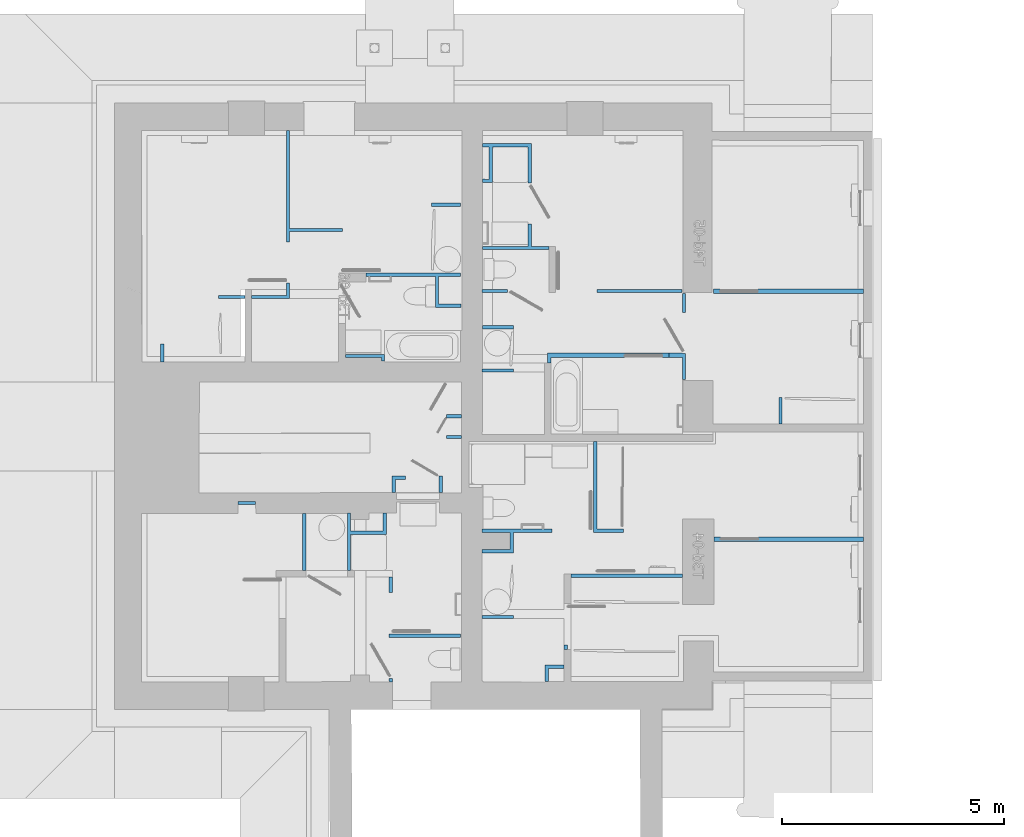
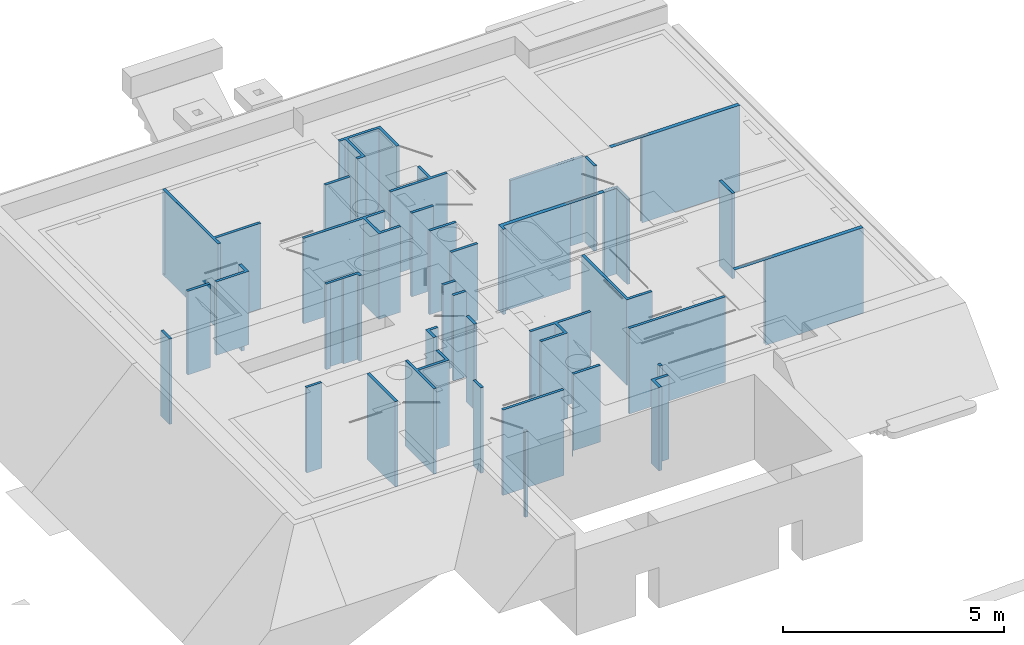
# Not in any storey, part 1 of 22: 1 plate.
"""IFC4 model written with IfcOpenShell, lengths in metres."""

import ifcopenshell
import ifcopenshell.guid

model = None  # the IFC model being written
_history = None  # IfcOwnerHistory: only IFC2X3 demands one
_inside = {}  # id of a spatial element -> (the spatial element, [elements in it])
_under = {}  # id of a project, library or spatial element -> (it, [spatial elements below it])
_declared = {}  # id of a project -> (the project, [libraries it declares])
_typed = {}  # id of a type object -> (the type object, [elements of that type])
_made_of = {}  # id of a material, layer set ... -> (it, [elements and type objects made of it])


def new_model(schema):
    """Start an empty IFC model of exactly this schema.

    Asked for "IFC4X3", IfcOpenShell would pick the latest addendum, in which some entities
    have other attributes; the version numbers below select the first issue.
    IFC2X3 requires an IfcOwnerHistory on every rooted entity: one is made here for all.
    """
    global model, _history
    if schema == "IFC4X3":
        model = ifcopenshell.file(schema_version=(4, 3, 0, 0))
    else:
        model = ifcopenshell.file(schema=schema)
    _inside.clear()
    _under.clear()
    _declared.clear()
    _typed.clear()
    _made_of.clear()
    _history = None
    if model.schema == "IFC2X3":
        org = make("IfcOrganization", Name="unknown")
        user = make(
            "IfcPersonAndOrganization",
            ThePerson=make("IfcPerson", FamilyName="unknown"),
            TheOrganization=org,
        )
        app = make(
            "IfcApplication",
            ApplicationDeveloper=org,
            Version="unknown",
            ApplicationFullName="unknown",
            ApplicationIdentifier="unknown",
        )
        _history = make(
            "IfcOwnerHistory",
            OwningUser=user,
            OwningApplication=app,
            ChangeAction="ADDED",
            CreationDate=0,
        )
    return model


def make(cls, **values):
    """One entity of the class cls with the attributes given. An attribute that is None is left unset."""
    return model.create_entity(
        cls, **{name: value for name, value in values.items() if value is not None}
    )


def rooted(cls, **values):
    """An entity with a GlobalId (a new one), such as an element, a storey or a relation."""
    return make(cls, GlobalId=ifcopenshell.guid.new(), OwnerHistory=_history, **values)


def si_unit(unit_type, name, prefix=None):
    """IfcSIUnit, for example si_unit("LENGTHUNIT", "METRE", prefix="MILLI")."""
    return make("IfcSIUnit", UnitType=unit_type, Prefix=prefix, Name=name)


def assignment(units):
    """IfcUnitAssignment: the units of a project."""
    return None if units is None else make("IfcUnitAssignment", Units=units)


def point(xyz):
    """IfcCartesianPoint."""
    return None if xyz is None else make("IfcCartesianPoint", Coordinates=xyz)


def direction(xyz):
    """IfcDirection."""
    return None if xyz is None else make("IfcDirection", DirectionRatios=xyz)


def frame(location, z_axis=None, x_axis=None):
    """IfcAxis2Placement3D, a coordinate frame: its origin and axes. An axis left out is left unset."""
    return make(
        "IfcAxis2Placement3D",
        Location=point(location),
        Axis=direction(z_axis),
        RefDirection=direction(x_axis),
    )


def origin_with_axes():
    """The frame at (0, 0, 0) with the z axis (0, 0, 1) and the x axis (1, 0, 0) written out."""
    return frame((0.0, 0.0, 0.0), z_axis=(0.0, 0.0, 1.0), x_axis=(1.0, 0.0, 0.0))


def place(relative_to, where):
    """IfcLocalPlacement: puts the frame where relative to a parent placement (None: the world)."""
    return make(
        "IfcLocalPlacement", PlacementRelTo=relative_to, RelativePlacement=where
    )


def context(
    kind, dimensions, precision=None, world=None, true_north=None, identifier=None
):
    """IfcGeometricRepresentationContext, for example the 3D "Model" context."""
    return make(
        "IfcGeometricRepresentationContext",
        ContextIdentifier=identifier,
        ContextType=kind,
        CoordinateSpaceDimension=dimensions,
        Precision=precision,
        WorldCoordinateSystem=world,
        TrueNorth=true_north,
    )


def subcontext(parent, identifier, kind, view, scale=None):
    """IfcGeometricRepresentationSubContext, for example "Body" below "Model"."""
    return make(
        "IfcGeometricRepresentationSubContext",
        ContextIdentifier=identifier,
        ContextType=kind,
        ParentContext=parent,
        TargetScale=scale,
        TargetView=view,
    )


def project(units=None, contexts=None):
    """IfcProject with its units and contexts."""
    return rooted(
        "IfcProject",
        Name="project",
        RepresentationContexts=contexts,
        UnitsInContext=assignment(units),
    )


def faces_of(points, faces, orient=None, outer=None):
    """IfcFace entities. A face is a list of loops; a loop is a list of indices into points, from 0.

    orient and outer hold one flag for each loop. By default every Orientation is true, the
    first loop of a face is its IfcFaceOuterBound and the others are IfcFaceBound.
    """
    made = []
    for i, loops in enumerate(faces):
        bounds = []
        for j, loop in enumerate(loops):
            is_outer = j == 0 if outer is None else outer[i][j]
            bounds.append(
                make(
                    "IfcFaceOuterBound" if is_outer else "IfcFaceBound",
                    Bound=make("IfcPolyLoop", Polygon=[points[k] for k in loop]),
                    Orientation=True if orient is None else orient[i][j],
                )
            )
        made.append(make("IfcFace", Bounds=bounds))
    return made


def faceted_brep(points, faces, orient=None, outer=None, voids=None):
    """IfcFacetedBrep: a solid bounded by flat faces; with voids (closed shells), ...WithVoids."""
    shared = [point(p) for p in points]
    hull = make("IfcClosedShell", CfsFaces=faces_of(shared, faces, orient, outer))
    if voids is None:
        return make("IfcFacetedBrep", Outer=hull)
    return make(
        "IfcFacetedBrepWithVoids",
        Outer=hull,
        Voids=[
            make(cls, CfsFaces=faces_of(shared, fs, o, b)) for cls, fs, o, b in voids
        ],
    )


def shape(context_of_items, identifier, shape_type, items):
    """IfcShapeRepresentation: the items that make up one representation, for example the "Body"."""
    return make(
        "IfcShapeRepresentation",
        ContextOfItems=context_of_items,
        RepresentationIdentifier=identifier,
        RepresentationType=shape_type,
        Items=items,
    )


def made_of(thing, what):
    """Note that an element or type object is made of a material, layer set ...; save() writes the relation."""
    if what is not None:
        _made_of.setdefault(what.id(), (what, []))[1].append(thing)
    return thing


def element(
    cls,
    number,
    at=None,
    inside=None,
    cuts=None,
    type_object=None,
    material=None,
    context=None,
    identifier="Body",
    shape_type=None,
    held_by="IfcProductDefinitionShape",
    body=None,
    shapes=None,
    **own,
):
    """One element of the class cls, such as IfcWall. Its Tag is "e" and its number.

    at: its placement. inside: the storey or other place that contains it. cuts: it is an
    opening in that element (IfcRelVoidsElement). A single representation is given by context,
    identifier, shape_type and body (its items); several are given by shapes. held_by: the class
    of the entity that holds the representations. save() writes the other relations.
    """
    e = rooted(cls, Tag="e%d" % number, ObjectPlacement=at, **own)
    if body is not None:
        shapes = [shape(context, identifier, shape_type, body)]
    if shapes is not None:
        e.Representation = make(held_by, Representations=shapes)
    if inside is not None:
        _inside.setdefault(inside.id(), (inside, []))[1].append(e)
    if cuts is not None:
        rooted(
            "IfcRelVoidsElement", RelatingBuildingElement=cuts, RelatedOpeningElement=e
        )
    if type_object is not None:
        _typed.setdefault(type_object.id(), (type_object, []))[1].append(e)
    return made_of(e, material)


def aggregate(whole, parts):
    """IfcRelAggregates: a whole, such as a stair, and the parts it consists of."""
    return rooted("IfcRelAggregates", RelatingObject=whole, RelatedObjects=parts)


def save(model, path):
    """Write the relations noted so far, then the file.

    IfcRelAggregates (storeys below a building ...), IfcRelContainedInSpatialStructure (elements
    in a storey), IfcRelDefinesByType, IfcRelAssociatesMaterial and IfcRelDeclares: one each for
    every whole, place, type object, material and project.
    """
    for whole, parts in _under.values():
        aggregate(whole, parts)
    for where, things in _inside.values():
        rooted(
            "IfcRelContainedInSpatialStructure",
            RelatedElements=things,
            RelatingStructure=where,
        )
    for kind, things in _typed.values():
        rooted("IfcRelDefinesByType", RelatedObjects=things, RelatingType=kind)
    for what, things in _made_of.values():
        rooted("IfcRelAssociatesMaterial", RelatedObjects=things, RelatingMaterial=what)
    for by, libraries in _declared.values():
        rooted("IfcRelDeclares", RelatingContext=by, RelatedDefinitions=libraries)
    model.write(path)


model = new_model("IFC4")

# Units and contexts
model_context = context("Model", 3, precision=1e-05, world=origin_with_axes(), true_north=direction((1.0, 0.0)))
body_context = subcontext(model_context, "Body", "Model", "MODEL_VIEW")
ifc_project = project(units=[si_unit("LENGTHUNIT", "METRE"), si_unit("AREAUNIT", "SQUARE_METRE"), si_unit("VOLUMEUNIT", "CUBIC_METRE"), si_unit("MASSUNIT", "GRAM", prefix="KILO"), si_unit("TIMEUNIT", "SECOND"), si_unit("PLANEANGLEUNIT", "RADIAN"), si_unit("SOLIDANGLEUNIT", "STERADIAN")], contexts=[model_context])

# Plate
plate_placement = place(None, origin_with_axes())
element("IfcPlate", 1, at=plate_placement, Name="Undefined", PredefinedType="NOTDEFINED", context=body_context, shape_type="Brep", body=[
    faceted_brep([(154.575398, 25.936595, 2.31), (154.575398, 25.877333, 2.31), (153.771129, 25.877333, 2.31), (153.771129, 25.936595, 2.31), (154.583864, 20.298244, 2.31), (154.583864, 20.28131, 2.31), (153.779595, 20.28131, 2.31), (153.779595, 20.298244, 2.31), (154.583864, 20.357505, 2.31), (155.48126, 20.357505, 2.31), (155.48126, 20.298244, 2.31), (154.575398, 25.8604, 2.31), (153.771129, 25.8604, 2.31), (155.309799, 23.523785, 2.31), (155.309743, 22.928146, 2.31), (155.309743, 23.523786, 2.31), (154.583864, 20.382902, 2.31), (153.779595, 20.357505, 2.31), (153.779595, 20.382902, 2.31), (153.779595, 20.315173, 2.31), (155.472794, 25.936595, 2.31), (155.472794, 25.877333, 2.31), (147.588765, 26.241369, 2.31), (147.588755, 25.621157, 2.31), (147.588755, 25.621157, -0.05), (147.588765, 26.241369, -0.05), (154.575398, 25.961992, 2.31), (153.771129, 25.961992, 2.31), (147.514759, 25.547158, 2.31), (147.514759, 25.547158, -0.05), (148.081981, 25.547158, -0.05), (148.081981, 25.547158, 2.31), (149.671084, 29.227523, 2.31), (148.572636, 29.227705, 2.31), (148.572636, 29.227705, 0.0), (149.671084, 29.227523, 0.0), (147.514765, 26.241369, 2.31), (147.514765, 26.241369, -0.05), (151.070475, 20.484494, 2.31), (151.144471, 20.484494, 2.31), (151.144471, 20.558494, 2.31), (151.144475, 22.473213, 2.31), (151.070475, 22.473214, 2.31), (151.73929, 20.484497, 2.31), (151.73929, 20.558492, 2.31), (150.139216, 20.484494, 2.31), (150.139216, 20.55849, 2.31), (148.564542, 20.558495, 2.31), (148.564542, 20.484495, 2.31), (149.193225, 20.484495, 2.31), (149.267225, 20.484494, 2.31), (153.051519, 25.877333, 2.31), (153.059985, 25.951328, 2.31), (153.059985, 25.877333, 2.31), (147.675614, 21.754394, 2.31), (147.599426, 21.754394, 2.31), (147.59942, 21.381889, 2.31), (147.675613, 21.38189, 2.31), (147.760273, 22.668719, 2.31), (147.760273, 22.62639, 2.31), (147.760273, 22.592526, 2.31), (148.098913, 22.592525, 2.31), (148.098913, 22.668714, 2.31), (146.54117, 21.384843, 2.31), (146.617363, 21.384843, 2.31), (146.617364, 21.6782, 2.31), (146.617364, 21.754394, 2.31), (146.541175, 21.754394, 2.31), (147.760273, 23.138582, 2.31), (147.760273, 23.100486, 2.31), (147.760273, 23.062389, 2.31), (148.098913, 23.062388, 2.31), (148.098913, 23.138577, 2.31), (150.410129, 17.953162, 2.31), (150.410129, 17.851569, 2.31), (150.484124, 17.851569, 2.31), (150.48413, 17.953162, 2.31), (149.978364, 17.131959, 2.31), (150.052359, 17.131959, 2.31), (150.052364, 17.430467, 2.31), (150.052364, 17.504463, 2.31), (149.978364, 17.504463, 2.31), (149.978364, 17.148892, 2.31), (146.840301, 21.678199, 2.31), (146.840301, 21.754394, 2.31), (145.948785, 26.241369, 2.31), (145.948785, 26.31537, 2.31), (145.94855, 26.11438, 2.31), (157.137778, 25.962256, 2.31), (157.018767, 25.962245, 2.31), (157.018779, 25.860665, 2.31), (157.137778, 25.860664, 2.31), (157.137778, 25.962256, -0.05), (157.018767, 25.962245, -0.05), (154.575398, 25.961992, -0.05), (157.137778, 20.281315, -0.05), (157.137778, 20.281315, 2.31), (154.583864, 20.28131, -0.05), (157.137778, 25.860664, -0.05), (143.468014, 21.178705, 2.31), (143.070111, 21.178705, 2.31), (143.070111, 21.110976, 2.31), (143.468014, 21.110976, 2.31), (143.468014, 21.110976, -0.05), (143.070111, 21.110976, -0.05), (141.334669, 24.320021, 2.31), (141.334582, 24.319606, 2.31), (141.334582, 24.319606, 0.0), (141.334669, 24.320021, 0.0), (143.070111, 21.178705, -0.05), (143.468014, 21.178705, -0.05), (141.409145, 24.717476, 2.31), (141.335145, 24.717494, 2.31), (141.335145, 24.717494, -0.05), (141.409145, 24.717476, -0.05), (141.409145, 24.717476, 0.0), (147.675613, 21.38189, -0.05), (147.59942, 21.38189, -0.05), (147.599426, 21.754394, -0.05), (147.675614, 21.754394, -0.05), (151.866279, 24.429653, 2.31), (151.866279, 24.488915, 2.31), (152.763675, 24.488915, 2.31), (152.763675, 24.429653, 2.31), (151.866279, 24.514312, 2.31), (152.763675, 24.514308, 2.31), (151.866279, 24.41272, 2.31), (152.763675, 24.412715, 2.31), (151.06201, 24.429653, 2.31), (151.06201, 24.488915, 2.31), (153.068451, 19.476165, 2.31), (153.068451, 19.485506, 2.31), (153.068451, 19.485506, -0.05), (153.068451, 19.476165, -0.05), (150.562517, 19.55016, -0.05), (150.562517, 19.47616, -0.05), (153.068451, 19.55016, -0.05), (153.068451, 19.55016, 2.31), (150.562517, 19.55016, 2.31), (150.562517, 19.47616, 2.31), (148.081981, 27.883773, 2.31), (148.081981, 27.875306, 2.31), (148.081981, 27.875306, 0.0), (148.081981, 27.883773, 0.0), (148.716942, 28.349402, 0.0), (148.571796, 28.349392, 0.0), (148.571636, 28.426569, 0.0), (148.716527, 28.425494, 0.0), (148.716942, 28.387448, 0.0), (148.081981, 27.816044, 2.31), (148.081981, 27.815774, 2.31), (148.081981, 27.815774, 0.0), (148.081981, 27.816044, 0.0), (148.081981, 27.832978, 2.31), (148.081981, 27.832978, 0.0), (148.57259, 29.153704, 2.31), (148.716942, 29.153466, 2.31), (148.716942, 29.153466, 0.0), (148.57259, 29.153704, 0.0), (148.793037, 29.15388, 2.31), (149.597072, 29.153533, 2.31), (149.597072, 29.153533, 0.0), (148.793037, 29.15388, 0.0), (147.430099, 27.816044, 2.31), (147.430098, 27.816044, 0.0), (149.671067, 29.153533, 0.0), (149.671393, 28.340936, 0.0), (147.760273, 23.138582, -0.05), (147.760273, 23.100486, -0.05), (147.760273, 23.062389, -0.05), (149.14023, 25.951329, 2.31), (149.14023, 25.877333, 2.31), (149.14023, 25.877333, 0.0), (149.14023, 25.951329, 0.0), (148.568453, 25.877333, 0.0), (148.568545, 25.951334, 0.0), (148.098913, 23.138577, -0.05), (149.26722, 25.138594, 2.31), (149.26722, 25.064596, 2.31), (149.267219, 25.064596, 0.0), (149.26722, 25.138594, 0.0), (148.568545, 25.951334, 2.31), (147.760273, 22.668719, -0.05), (148.098913, 22.668714, -0.05), (147.760273, 22.62639, -0.05), (148.098913, 23.062388, -0.05), (148.569707, 25.064597, 0.0), (148.569707, 25.064597, 2.31), (148.569707, 25.138597, 2.31), (148.569707, 25.138597, 0.0), (148.098913, 22.592525, -0.05), (147.760273, 22.592526, -0.05), (148.081981, 25.621153, 2.31), (148.081981, 25.555624, 2.31), (148.081981, 25.555624, -0.05), (148.081981, 25.621153, -0.05), (148.568453, 25.877333, 2.31), (145.952873, 26.241369, 2.31), (145.952873, 26.315369, 2.31), (145.952873, 26.315369, -0.05), (145.952873, 26.241369, -0.05), (149.671389, 27.418143, 2.31), (149.671389, 26.918648, 2.31), (149.671389, 26.918648, 0.0), (149.671389, 27.418143, 0.0), (150.063024, 26.844653, 2.31), (150.063024, 26.918649, 2.31), (150.063023, 26.918648, 0.0), (150.063023, 26.844654, 0.0), (148.081981, 26.315477, -0.05), (148.081981, 26.300633, -0.05), (148.081981, 26.241481, -0.05), (148.081981, 26.315477, 2.31), (148.081981, 26.300633, 2.31), (148.081981, 26.241481, 2.31), (149.597388, 26.918648, 2.31), (149.597393, 27.418143, 2.31), (149.597393, 27.418143, 0.0), (149.597388, 26.918648, 0.0), (148.569753, 26.918679, 0.0), (148.569707, 26.881679, 0.0), (148.569707, 26.844679, 0.0), (148.569707, 26.844679, 2.31), (149.597393, 28.340936, 2.31), (149.597393, 28.340936, 0.0), (148.569707, 26.881679, 2.31), (149.671393, 28.340936, 2.31), (152.763675, 24.429653, -0.05), (152.763675, 24.412715, -0.05), (153.068451, 24.514312, 2.31), (153.068451, 24.514312, -0.05), (152.763675, 24.514308, -0.05), (152.763675, 24.488915, -0.05), (153.068451, 23.921688, 2.31), (153.06845, 24.41272, 2.31), (153.068451, 24.41272, -0.05), (153.068451, 23.921688, -0.05), (153.142446, 23.921688, 2.31), (153.085381, 23.921688, 2.31), (153.085381, 23.921688, -0.05), (153.142446, 23.921688, -0.05), (153.068451, 24.505841, -0.05), (151.14667, 25.951333, 2.31), (153.059985, 25.951328, -0.05), (151.14667, 25.951333, -0.05), (153.051519, 25.877333, -0.05), (153.142451, 24.50584, 2.31), (153.142451, 24.50584, -0.05), (151.14667, 25.877333, 2.31), (151.14667, 25.877333, -0.05), (153.068451, 24.505841, 2.31), (147.430098, 27.890044, 2.31), (148.081981, 27.889769, 2.31), (148.717358, 28.349402, 2.31), (148.716942, 28.349402, 2.31), (148.716942, 28.387448, 2.31), (149.671067, 29.153533, 2.31), (148.566284, 24.140182, 2.31), (148.566223, 24.091027, 2.31), (148.566369, 24.165022, 2.31), (148.566315, 24.165027, 2.31), (153.142451, 25.8604, 2.31), (153.068451, 25.8604, 2.31), (153.068451, 25.428634, 2.31), (153.142446, 25.428634, 2.31), (151.73929, 20.558492, -0.05), (151.73929, 20.484497, -0.05), (151.070475, 20.484494, -0.05), (151.070475, 22.473214, -0.05), (151.144475, 22.473213, -0.05), (151.144471, 20.558494, -0.05), (144.602467, 20.91626, 2.31), (144.528466, 20.91626, 2.31), (144.528466, 20.899326, 2.31), (144.602466, 20.899326, 2.31), (142.638346, 25.742309, 2.31), (143.230965, 25.742148, 2.31), (143.230965, 25.816144, 2.31), (142.638346, 25.816309, 2.31), (145.60991, 24.42119, 2.31), (145.940084, 24.421187, 2.31), (145.940084, 24.480442, 2.31), (145.60991, 24.480442, 2.31), (146.304162, 24.336519, 2.31), (146.37194, 24.336521, 2.31), (146.371851, 24.421181, 2.31), (146.304185, 24.421184, 2.31), (148.581474, 18.613508, 2.31), (148.579965, 18.613508, 2.31), (148.564542, 18.549421, 2.31), (148.564542, 18.545781, 2.31), (148.581474, 18.545781, 2.31), (149.267219, 18.545781, 2.31), (149.26722, 18.619776, 2.31), (148.581474, 18.619781, 2.31), (146.371847, 24.488958, 2.31), (145.491386, 24.488858, 2.31), (145.491386, 24.421192, 2.31), (144.161657, 25.741885, 2.31), (144.235653, 25.741868, 2.31), (144.236223, 26.088974, 2.31), (144.162223, 26.088992, 2.31), (144.161988, 25.94506, 2.31), (144.161718, 25.815983, 2.31), (155.472794, 25.936595, -0.05), (155.472794, 25.877333, -0.05), (154.575398, 25.8604, -0.05), (154.575398, 25.877333, -0.05), (154.575398, 25.936595, -0.05), (157.018779, 25.860665, -0.05), (154.583864, 20.357505, -0.05), (155.48126, 20.357505, -0.05), (155.48126, 20.298244, -0.05), (154.583864, 20.298244, -0.05), (154.583864, 20.382902, -0.05), (157.019378, 20.382906, -0.05), (157.137778, 20.382907, -0.05), (151.070476, 22.533263, 2.31), (151.070476, 22.533263, -0.05), (157.019378, 20.382906, 2.31), (157.137778, 20.382906, 2.31), (155.235799, 23.523786, -0.05), (155.309743, 23.523786, -0.05), (155.309743, 22.928146, -0.05), (155.235799, 22.928146, -0.05), (155.235799, 22.928146, 2.31), (155.235799, 23.523786, 2.31), (150.113823, 24.514306, 2.31), (151.866279, 24.514312, -0.05), (151.06201, 24.514312, -0.05), (150.113823, 24.514306, -0.05), (151.866279, 24.488915, -0.05), (151.06201, 24.488915, -0.05), (151.866279, 24.429653, -0.05), (151.866279, 24.41272, -0.05), (151.06201, 24.41272, -0.05), (151.06201, 24.429653, -0.05), (150.039823, 24.294192, 2.31), (150.039823, 24.294192, -0.05), (150.039824, 24.514308, -0.05), (150.039824, 24.514308, 2.31), (150.113823, 24.412714, 2.31), (150.113823, 24.412714, -0.05), (151.144475, 22.533263, 2.31), (151.144475, 22.533263, -0.05), (150.113819, 24.294191, 2.31), (150.113819, 24.294191, -0.05), (150.410129, 17.430462, 2.31), (150.410129, 17.430462, 0.0), (150.052364, 17.430467, 0.0), (146.549635, 19.485506, 2.31), (146.549634, 19.129935, 2.31), (146.549634, 19.129935, -0.05), (146.549635, 19.485506, -0.05), (146.473441, 19.129935, 2.31), (146.473441, 19.129935, -0.05), (146.473447, 19.485506, 2.31), (146.473447, 19.485506, -0.05), (149.193225, 20.484495, -0.05), (149.193225, 20.101326, -0.05), (148.564542, 20.101331, -0.05), (148.564542, 20.02733, -0.05), (148.581474, 20.02733, -0.05), (149.267219, 20.02733, -0.05), (149.267225, 20.484495, -0.05), (150.139216, 20.484494, -0.05), (150.139216, 20.55849, -0.05), (148.581474, 18.545781, 0.2), (149.267219, 18.545781, 0.2), (150.410129, 17.504462, 0.0), (149.978364, 17.504463, 0.0), (149.978364, 17.148892, 0.0), (149.978364, 17.131959, 0.0), (150.052359, 17.131959, 0.0), (150.41013, 17.953162, 0.2), (150.48413, 17.953162, 0.2), (150.410129, 17.851569, 0.2), (150.484124, 17.851569, 0.2), (148.564542, 20.02733, 2.31), (148.581474, 20.02733, 2.31), (149.26722, 20.02733, 2.31), (146.481908, 17.123494, 2.31), (146.549635, 17.123494, 2.31), (146.549635, 17.123494, -0.05), (146.481908, 17.123494, -0.05), (149.267219, 18.619777, 0.2), (148.581474, 18.619781, 0.2), (148.581474, 18.619781, 0.0), (148.564542, 18.619782, 0.0), (148.564542, 18.619782, 2.31), (149.193225, 20.101326, 2.31), (148.564542, 18.545781, 0.2), (148.564542, 20.484495, -0.05), (146.549635, 17.199688, 2.31), (146.549635, 17.199688, -0.05), (146.473447, 17.199688, 2.31), (146.473445, 17.148892, 2.31), (146.473445, 17.148892, -0.05), (146.473447, 17.199688, -0.05), (146.481908, 17.148892, 2.31), (146.481908, 17.148892, -0.05), (148.564542, 18.549421, 0.2), (149.267219, 18.549421, 0.2), (148.564542, 20.558495, -0.05), (148.564542, 20.101331, 2.31), (146.549632, 18.198675, 2.31), (146.549634, 18.196481, 2.31), (146.549634, 18.196481, -0.05), (146.549632, 18.198675, -0.05), (144.602457, 19.629428, 2.31), (144.602466, 20.899326, -0.05), (144.602456, 19.629428, -0.05), (144.602457, 19.629428, 0.2), (148.073515, 18.122592, -0.05), (148.073515, 18.122592, 2.31), (146.473441, 18.122481, 2.31), (146.473441, 18.122481, -0.05), (146.473443, 18.198676, 2.31), (146.473443, 18.198676, -0.05), (144.528466, 20.899326, -0.05), (148.073515, 18.12547, -0.05), (148.073515, 18.196588, -0.05), (148.073515, 18.12547, 2.31), (144.528461, 19.629429, 2.31), (144.528461, 19.629429, -0.05), (146.337992, 20.924726, -0.05), (146.337987, 20.516273, -0.05), (145.94855, 20.516215, -0.05), (145.94855, 20.516164, -0.05), (145.94855, 20.511217, -0.05), (145.94855, 20.442217, -0.05), (146.41418, 20.442277, -0.05), (146.41418, 20.924726, -0.05), (146.41418, 20.442277, 2.31), (146.41418, 20.924726, 2.31), (148.073515, 18.196588, 2.31), (146.541175, 21.754394, -0.05), (146.840301, 21.754394, -0.05), (146.840301, 21.678199, -0.05), (146.617364, 21.6782, -0.05), (146.617363, 21.384843, -0.05), (146.54117, 21.384843, -0.05), (141.334583, 24.320021, 0.0), (141.334669, 24.380925, 0.0), (141.334669, 24.380925, -0.05), (141.334583, 24.320021, 2.31), (144.236283, 27.249104, -0.05), (144.236283, 27.286104, -0.05), (144.236283, 27.323104, -0.05), (145.423658, 27.322818, -0.05), (145.423658, 27.248823, -0.05), (144.162793, 29.526186, 2.31), (144.162793, 29.404377, 2.31), (144.162228, 27.020242, 2.31), (144.236223, 27.020224, 2.31), (144.236283, 27.249104, 2.31), (145.423658, 27.248823, 2.31), (145.423658, 27.322818, 2.31), (144.236283, 27.323104, 2.31), (144.236793, 29.526167, 2.31), (144.236793, 29.526167, -0.05), (144.162228, 27.020242, -0.05), (144.236223, 27.020224, -0.05), (144.162793, 29.404377, 0.0), (144.162793, 29.404377, -0.05), (144.236223, 26.088974, 0.0), (144.235987, 25.94506, 0.0), (144.161988, 25.94506, 0.0), (144.162223, 26.088992, 0.0), (144.161988, 25.94506, 0.283), (144.161729, 25.821452, 0.283), (144.161729, 25.816148, 0.283), (144.161718, 25.815983, 0.283), (143.230965, 25.742148, 0.0), (142.638346, 25.742309, 0.0), (142.638346, 25.816309, 0.0), (143.230965, 25.816144, 0.0), (143.383353, 25.742148, 2.31), (143.383353, 25.742148, 0.283), (144.235653, 25.741871, 0.283), (143.383353, 25.816148, 2.31), (143.383353, 25.816148, 0.283), (144.162793, 29.526186, 0.0), (144.162793, 29.526186, -0.05), (144.235987, 25.94506, 0.283), (146.304162, 24.336519, -0.05), (146.37194, 24.336521, -0.05), (146.371851, 24.421181, -0.05), (146.371851, 24.421181, 0.0), (146.304185, 24.421184, 0.0), (147.430098, 27.890044, 0.0), (148.081981, 27.889769, 0.0), (145.940084, 24.480443, 0.0), (145.940084, 24.480442, -0.05), (145.940084, 24.421187, -0.05), (145.940084, 24.421186, 0.0), (148.571636, 28.426569, 2.31), (148.716527, 28.425494, 2.31), (148.571636, 28.426569, 0.083), (148.793124, 28.349402, 2.31), (148.793124, 28.349402, 0.0), (146.371847, 24.488958, -0.05), (146.371847, 24.488958, 0.0), (145.491386, 24.488858, -0.05), (145.491386, 24.488858, 0.0), (145.491386, 24.421192, 0.0), (145.491386, 24.421192, -0.05), (145.60991, 24.42119, -0.05), (145.609911, 24.421191, 0.0), (146.304185, 24.421184, -0.05), (145.60991, 24.480442, -0.05), (145.609911, 24.480443, 0.0), (153.142451, 25.8604, -0.05), (153.068451, 25.8604, -0.05), (153.142446, 25.428634, -0.05), (153.068451, 25.428634, -0.05), (149.26722, 24.165022, 2.31), (149.267219, 24.091027, 2.31), (149.267219, 24.091017, 0.2), (149.267219, 24.165022, 0.2), (148.566272, 24.091027, 2.31), (148.566272, 24.091017, 0.2), (148.566369, 24.091017, 0.2), (148.566369, 24.165022, 0.2), (145.94855, 20.516164, 0.31), (145.94855, 20.442217, 0.31), (146.337992, 20.924726, 2.31), (145.94855, 20.516215, 0.31), (146.337987, 20.516273, 2.31), (145.607664, 20.516164, 0.31), (145.607664, 20.516164, 2.31), (146.337987, 20.442266, 2.31), (145.607664, 20.442214, 2.31), (145.607664, 20.442217, 0.31), (148.566222, 24.091018, 0.2), (148.566223, 24.14009, 2.31), (148.566223, 24.165027, 2.31), (148.564542, 25.877333, 2.31), (148.564542, 25.951334, 2.31), (148.569753, 26.918679, 2.31), (148.571796, 28.349392, 2.31), (148.571379, 28.426571, 2.31), (148.571588, 28.387982, 0.0), (148.571379, 28.426571, 0.0), (148.571379, 28.426571, 0.083), (148.717358, 28.349402, 0.0), (150.410129, 17.504462, 2.31), (145.533717, 19.629428, 2.31), (145.607712, 19.629428, 2.31), (145.607712, 19.629428, -0.05), (145.533717, 19.629428, -0.05), (145.533717, 19.629428, 0.0), (145.533717, 19.629428, 0.2), (148.090447, 25.621153, 2.31), (148.090446, 25.597953, 2.31), (148.090446, 25.589488, 2.31), (148.090446, 25.572557, 2.31), (148.090447, 25.547158, 2.31), (145.533648, 20.924345, 0.0), (145.533648, 20.772337, 0.0), (145.533717, 20.772337, 0.0), (145.533717, 20.91626, 0.0), (145.592978, 20.924578, 0.0), (145.592978, 20.924345, 0.0), (145.533648, 20.924345, 2.31), (145.533648, 20.924345, 0.083), (145.592978, 20.924578, 0.083), (145.592978, 20.924578, 2.31), (145.592978, 20.924726, 2.31), (145.607645, 20.924636, 2.31), (145.533645, 20.924636, 2.31), (145.607645, 20.924636, 0.0), (145.607653, 20.924345, 0.0), (145.533717, 20.91626, 2.31), (145.607653, 20.772337, 2.31), (145.592978, 20.772337, 2.31), (145.607653, 20.924345, -0.05), (148.581474, 18.613508, 0.0), (148.564542, 18.613508, 0.0), (148.564542, 18.613508, 2.31), (148.564542, 18.613508, 0.2), (141.408578, 24.319589, 2.31), (141.408578, 24.319589, 0.0), (141.408578, 24.319589, -0.05), (141.334582, 24.319606, -0.05), (141.408578, 24.441398, 2.31), (148.581474, 18.613508, 0.2), (145.592978, 20.924345, -0.05), (145.533648, 20.924345, -0.05), (145.533717, 20.91626, -0.05), (145.533717, 20.772337, -0.05), (141.334669, 24.320021, -0.05), (141.408578, 24.441398, -0.05), (141.408578, 24.441398, 0.0)], [[[0, 1, 2, 3]], [[4, 5, 6, 7]], [[4, 8, 9, 10]], [[1, 11, 12, 2]], [[13, 14, 15]], [[16, 8, 17, 18]], [[8, 4, 7, 19, 17]], [[1, 0, 20, 21]], [[22, 23, 24, 25]], [[26, 0, 3, 27]], [[28, 29, 30, 31]], [[32, 33, 34, 35]], [[28, 36, 37, 29]], [[38, 39, 40, 41, 42]], [[43, 44, 40, 39]], [[45, 46, 47, 48, 49, 50]], [[51, 52, 53]], [[54, 55, 56, 57]], [[58, 59, 60, 61, 62]], [[63, 64, 65, 66, 67]], [[68, 69, 70, 71, 72]], [[73, 74, 75, 76]], [[77, 78, 79, 80, 81, 82]], [[83, 84, 66, 65]], [[85, 86, 87]], [[88, 89, 26, 0, 20, 21, 1, 11, 90, 91]], [[92, 93, 94, 26, 89, 88]], [[95, 96, 5, 97]], [[92, 88, 91, 98]], [[99, 100, 101, 102]], [[101, 102, 103, 104]], [[105, 106, 107, 108]], [[109, 104, 103, 110]], [[111, 112, 113, 114, 115]], [[102, 99, 110, 103]], [[116, 57, 56, 117]], [[117, 56, 55, 118]], [[54, 57, 116, 119]], [[120, 121, 122, 123]], [[121, 124, 125, 122]], [[126, 120, 123, 127]], [[121, 120, 128, 129]], [[130, 131, 132, 133]], [[134, 135, 133, 132, 136]], [[137, 138, 134, 136]], [[131, 137, 136, 132]], [[138, 139, 135, 134]], [[139, 130, 133, 135]], [[140, 141, 142, 143]], [[144, 145, 146, 147, 148]], [[149, 150, 151, 152]], [[141, 153, 154, 142]], [[155, 156, 157, 158]], [[153, 149, 152, 154]], [[159, 160, 161, 162]], [[150, 163, 164, 151]], [[35, 165, 166]], [[69, 68, 167, 168]], [[70, 69, 168, 169]], [[170, 171, 172, 173]], [[173, 172, 174, 175]], [[72, 176, 167, 68]], [[177, 178, 179, 180]], [[170, 173, 175, 181]], [[182, 58, 62, 183]], [[59, 58, 182, 184]], [[168, 167, 176, 185, 169]], [[186, 179, 178, 187]], [[187, 188, 189, 186]], [[180, 179, 186, 189]], [[184, 182, 183, 190, 191]], [[188, 177, 180, 189]], [[60, 59, 184, 191]], [[61, 60, 191, 190]], [[185, 71, 70, 169]], [[192, 193, 194, 195]], [[174, 172, 171, 196]], [[193, 31, 30, 194]], [[23, 192, 195, 24]], [[197, 198, 199, 200]], [[36, 197, 200, 37]], [[201, 202, 203, 204]], [[205, 206, 207, 208]], [[200, 199, 209, 210, 211, 25, 37]], [[198, 212, 209, 199]], [[206, 202, 203, 207]], [[213, 214, 211, 210]], [[215, 216, 217, 218]], [[212, 213, 210, 209]], [[207, 203, 204, 217, 218, 219, 220, 221, 208]], [[214, 22, 25, 211]], [[216, 201, 204, 217]], [[208, 221, 222, 205]], [[223, 160, 161, 224]], [[225, 222, 221, 220]], [[226, 223, 224, 166]], [[127, 123, 227, 228]], [[125, 229, 230, 231]], [[122, 125, 231, 232]], [[233, 234, 235, 236]], [[237, 238, 239, 240]], [[230, 241, 235, 228, 227, 232, 231]], [[242, 52, 243, 244]], [[52, 51, 245, 243]], [[123, 122, 232, 227]], [[246, 237, 240, 247]], [[238, 233, 236, 239]], [[51, 248, 249, 245]], [[250, 246, 247, 241]], [[248, 242, 244, 249]], [[229, 250, 241, 230]], [[234, 127, 228, 235]], [[251, 163, 150, 149, 153, 141, 140, 252]], [[171, 170, 181, 196]], [[253, 254, 255]], [[178, 177, 188, 187]], [[223, 226, 256, 160]], [[257, 258, 259, 260]], [[261, 262, 263, 264]], [[198, 197, 36, 22, 214, 213, 212]], [[201, 216, 215, 202]], [[55, 54, 119, 118]], [[118, 119, 116, 117]], [[265, 266, 267, 268, 269, 270]], [[271, 272, 273, 274]], [[275, 276, 277, 278]], [[279, 280, 281, 282]], [[283, 284, 285, 286]], [[287, 288, 289, 290, 291, 292, 293, 294]], [[280, 286, 285, 295, 296, 297, 279, 282, 281]], [[298, 299, 300, 301, 302, 303]], [[21, 20, 304, 305]], [[267, 266, 43, 39, 38]], [[287, 294, 288]], [[306, 307, 305, 304, 308, 94, 93, 92, 98, 309]], [[1, 21, 305, 307]], [[9, 8, 310, 311]], [[4, 10, 312, 313]], [[97, 313, 312, 311, 310, 314, 315, 316, 95]], [[40, 44, 265, 270]], [[41, 40, 270, 269]], [[38, 42, 317, 318, 268, 267]], [[16, 319, 320, 316, 315, 314]], [[306, 309, 98, 91, 90, 11]], [[10, 9, 311, 312]], [[321, 322, 323, 324]], [[325, 326, 321, 324]], [[44, 43, 266, 265]], [[11, 1, 307, 306]], [[20, 0, 308, 304]], [[8, 16, 314, 310]], [[0, 26, 94, 308]], [[5, 4, 313, 97]], [[15, 14, 323, 322]], [[14, 325, 324, 323]], [[326, 15, 322, 321]], [[327, 124, 328, 329, 330]], [[328, 331, 332, 329]], [[333, 334, 335, 336]], [[337, 338, 339, 340]], [[124, 121, 331, 328]], [[327, 340, 339, 330]], [[341, 342, 335, 334, 126]], [[121, 129, 332, 331]], [[41, 343, 344, 269]], [[129, 128, 336, 332]], [[120, 126, 334, 333]], [[345, 341, 342, 346]], [[128, 120, 333, 336]], [[79, 347, 348, 349]], [[350, 351, 352, 353]], [[351, 354, 355, 352]], [[354, 356, 357, 355]], [[358, 359, 360, 361, 362, 363, 364]], [[46, 45, 365, 366]], [[292, 291, 367, 368]], [[369, 370, 371, 372, 373, 349, 348]], [[82, 81, 370, 371]], [[77, 82, 371, 372]], [[374, 73, 76, 375]], [[376, 374, 375, 377]], [[79, 78, 373, 349]], [[76, 75, 377, 375]], [[357, 353, 352, 355]], [[78, 77, 372, 373]], [[378, 379, 362, 361]], [[379, 380, 363, 362]], [[380, 50, 364, 363]], [[381, 382, 383, 384]], [[293, 385, 386, 387, 388, 389, 294]], [[49, 390, 359, 358]], [[291, 290, 391, 367]], [[49, 48, 392, 358]], [[50, 49, 358, 364]], [[393, 394, 383, 382]], [[395, 396, 397, 398]], [[396, 399, 400, 397]], [[399, 381, 384, 400]], [[391, 401, 402, 368, 367]], [[293, 292, 368, 402, 385]], [[384, 383, 394, 398, 397, 400]], [[47, 46, 366, 403]], [[393, 395, 398, 394]], [[390, 404, 360, 359]], [[45, 50, 364, 365]], [[405, 406, 407, 408]], [[409, 274, 410, 411, 412]], [[413, 414, 415, 416]], [[415, 417, 418, 416]], [[274, 273, 419, 410]], [[420, 413, 416, 418, 408, 407, 421]], [[413, 420, 422, 414]], [[273, 423, 424, 419]], [[425, 426, 427, 428, 429, 430, 431, 432]], [[424, 411, 410, 419]], [[432, 431, 433, 434]], [[417, 405, 408, 418]], [[406, 435, 421, 407]], [[436, 437, 438, 439, 440, 441]], [[442, 443, 444, 113, 112, 445, 106, 107]], [[442, 107, 108]], [[64, 63, 441, 440]], [[63, 67, 436, 441]], [[67, 66, 84, 437, 436]], [[446, 447, 448, 449, 450]], [[65, 64, 440, 439]], [[83, 438, 437, 84]], [[83, 65, 439, 438]], [[445, 106, 105]], [[451, 452, 453, 454, 455, 456, 457, 458, 459]], [[456, 455, 446, 450]], [[458, 457, 449, 448]], [[458, 448, 460, 459]], [[454, 453, 461, 462]], [[453, 452, 463, 464, 461]], [[457, 456, 450, 449]], [[455, 454, 462, 446]], [[465, 466, 467, 468]], [[468, 467, 469, 470, 471, 472, 303, 302, 301]], [[473, 474, 475, 476]], [[278, 277, 476, 475]], [[276, 275, 474, 473]], [[275, 278, 475, 474]], [[299, 298, 477, 478, 479]], [[301, 300, 465, 468]], [[303, 480, 481, 472]], [[451, 482, 483, 460, 459]], [[300, 299, 479, 484, 466, 465]], [[283, 485, 486, 284]], [[285, 284, 486, 487, 488]], [[285, 488, 489, 286]], [[163, 251, 490, 164]], [[164, 490, 491, 143, 142, 154, 152, 151]], [[280, 281, 492, 493, 494, 495]], [[251, 252, 491, 490]], [[252, 140, 143, 491]], [[496, 497, 147, 146, 498]], [[159, 499, 500, 162]], [[501, 502, 488, 487]], [[296, 295, 502, 501, 503, 504]], [[279, 297, 505, 506, 507, 508]], [[283, 286, 489, 509, 485]], [[280, 495, 489, 286]], [[282, 279, 508, 507, 510, 511]], [[243, 245, 249, 244]], [[95, 316, 320, 96]], [[262, 261, 512, 513]], [[261, 264, 514, 512]], [[513, 512, 514, 515]], [[264, 263, 515, 514]], [[263, 262, 513, 515]], [[319, 320, 96, 5, 4, 10, 9, 8, 16]], [[516, 517, 518, 519]], [[518, 517, 520, 521, 522]], [[516, 519, 523, 259]], [[429, 428, 524, 525, 430]], [[432, 434, 526, 425]], [[427, 527, 524, 428]], [[528, 426, 425, 526]], [[529, 527, 427, 426, 528, 530]], [[530, 528, 531, 532]], [[527, 529, 524]], [[433, 431, 430, 525, 533, 532, 531]], [[533, 525, 524, 529]], [[433, 531, 528, 526, 434]], [[519, 518, 522, 523]], [[523, 534, 258, 259]], [[535, 258, 257, 260, 536]], [[516, 259, 258, 520, 517]], [[175, 174, 196, 181]], [[537, 196, 181, 538]], [[338, 337, 345, 346]], [[345, 337, 340, 327, 124, 121, 129, 128, 120, 126, 341]], [[318, 317, 343, 344]], [[343, 317, 42, 41]], [[225, 222, 205, 206, 202, 215, 539]], [[539, 219, 218, 215]], [[539, 219, 220, 225]], [[540, 541, 496]], [[540, 496, 497, 255, 254]], [[540, 496, 498, 146, 145]], [[542, 146, 145]], [[543, 146, 542]], [[146, 543, 544, 498]], [[155, 33, 32, 256, 160, 159, 499, 253, 255, 156]], [[33, 155, 158, 34]], [[253, 254, 540, 145, 144, 545, 500, 499]], [[545, 144, 148]], [[226, 32, 35, 166]], [[224, 166, 165, 35, 34, 158, 157, 148, 545, 500, 162, 161]], [[347, 546, 80, 79]], [[546, 347, 348, 369]], [[546, 369, 370, 81, 80]], [[374, 376, 74, 73]], [[75, 74, 376, 377]], [[435, 422, 420, 421]], [[547, 548, 549, 550, 551, 552]], [[424, 423, 409, 412, 411]], [[423, 409, 274, 273]], [[101, 100, 109, 104]], [[109, 100, 99, 110]], [[297, 296, 504, 503, 506, 505]], [[480, 477, 298, 303]], [[480, 477, 478, 481]], [[277, 276, 473, 476]], [[192, 553, 554, 555, 556, 557, 31, 193]], [[192, 193, 31, 28, 36, 22, 23]], [[14, 325, 326, 15]], [[62, 61, 190, 183]], [[72, 71, 185, 176]], [[558, 559, 560, 561]], [[562, 558, 563]], [[564, 565, 566, 567]], [[558, 562, 566, 565]], [[568, 569, 567, 564, 570]], [[569, 567, 566, 562, 571]], [[572, 571, 562, 563]], [[529, 530, 532, 533]], [[564, 573, 547]], [[569, 574, 575, 567]], [[533, 529, 530, 574, 569, 571, 572, 576, 549, 548, 532]], [[350, 353, 357, 356]], [[350, 356, 354, 351]], [[548, 547, 573, 564, 567, 575, 574, 530, 532]], [[559, 551, 560]], [[552, 551, 559, 558, 565, 564, 547]], [[387, 577, 578, 388]], [[579, 288, 294, 389]], [[579, 289, 288]], [[404, 378, 379, 380, 50, 49, 390]], [[378, 404, 360, 361]], [[48, 47, 403, 392]], [[401, 391, 290, 289, 579, 580]], [[389, 388, 578, 580, 579]], [[139, 138, 137, 131, 130]], [[107, 106, 581, 582, 583, 584]], [[484, 479, 478, 481, 472, 471, 470, 469]], [[467, 466, 484, 469]], [[481, 471, 472]], [[422, 435, 406, 405, 417, 415, 414]], [[585, 111, 581]], [[111, 585, 581, 106, 105, 445, 112]], [[402, 401, 580, 586, 386, 385]], [[578, 577, 586, 580]], [[577, 387, 386, 586]], [[338, 346, 342, 330, 339]], [[332, 336, 335, 342, 330, 329]], [[366, 365, 364, 358, 392, 403]], [[549, 576, 587, 588, 589, 590, 550]], [[572, 563, 587, 576]], [[563, 558, 588, 587]], [[558, 561, 589, 588]], [[561, 560, 590, 589]], [[560, 551, 550, 590]], [[344, 318, 268, 269]], [[114, 113, 444, 591, 584, 583, 592]], [[443, 108, 591, 444]], [[108, 107, 584, 591]], [[582, 593, 592, 583]], [[593, 115, 114, 592]], [[582, 115, 593]], [[581, 111, 115, 582]], [[447, 446, 462, 461, 464, 483, 460, 448]], [[463, 482, 483, 464]], [[486, 485, 509, 487]], [[509, 494, 493, 510, 507, 506, 503, 501, 487]], [[492, 511, 510, 493]], [[509, 489, 495, 494]], [[509, 489, 488, 487]], [[285, 488, 502, 295]], [[25, 24, 195, 194, 30, 29, 37]], [[235, 241, 247, 240, 239, 236]]]),
])

save(model, "model.ifc")
